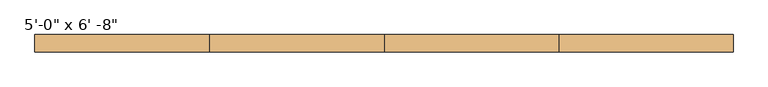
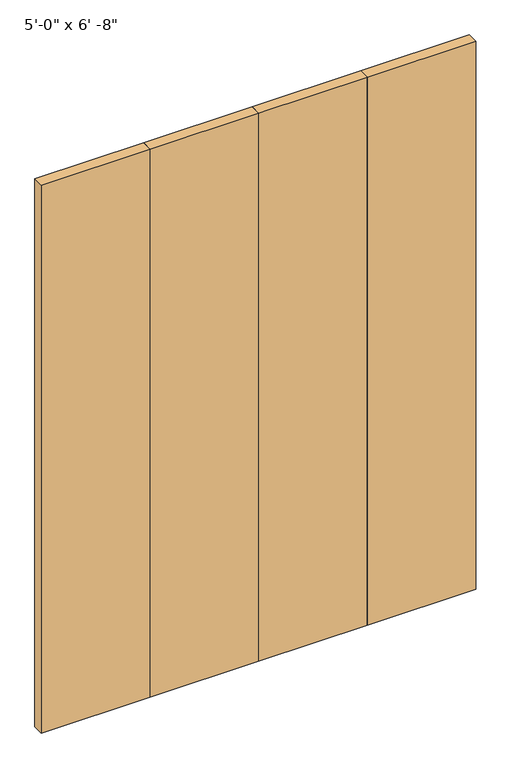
"""IFC4 building model written with IfcOpenShell, lengths in millimetres: door geometry."""

from ifc_helpers import new_model, si_unit, origin, origin_with_axes, place, context, project, spatial, polyline, outline, extrude, source, transform, mapped, element, save


def door_69b0f0e7(model_context):
    return source(origin(), model_context, "Body", "SweptSolid", [
        extrude(outline(polyline([(-762.0, 57.15), (-381.0, 57.15), (-381.0, 19.05), (-762.0, 19.05), (-762.0, 57.15)])), origin_with_axes(), (0.0, 0.0, 1.0), 2032.0),
        extrude(outline(polyline([(-381.0, 57.15), (0.0, 57.15), (0.0, 19.05), (-381.0, 19.05), (-381.0, 57.15)])), origin_with_axes(), (0.0, 0.0, 1.0), 2032.0),
        extrude(outline(polyline([(0.0, 57.15), (381.0, 57.15), (381.0, 19.05), (0.0, 19.05), (0.0, 57.15)])), origin_with_axes(), (0.0, 0.0, 1.0), 2032.0),
        extrude(outline(polyline([(381.0, 57.15), (762.0, 57.15), (762.0, 19.05), (381.0, 19.05), (381.0, 57.15)])), origin_with_axes(), (0.0, 0.0, 1.0), 2032.0),
    ])


if __name__ == "__main__":
    model = new_model("IFC4")
    model_context = context("Model", 3, world=origin())
    ifc_project = project(units=[si_unit("LENGTHUNIT", "METRE", prefix="MILLI")], contexts=[model_context])
    site = spatial("IfcSite", under=ifc_project)
    building = spatial("IfcBuilding", under=site)
    placement = place(None, origin())
    door_shape = door_69b0f0e7(model_context)
    element("IfcDoor", 1, ObjectType="Planitar - Bifold Door : 5'-0\" x 6' -8\"", at=placement, inside=building, context=model_context, shape_type="MappedRepresentation", body=[
        mapped(door_shape, transform((0.0, 0.0, 0.0), x_axis=(1.0, 0.0, 0.0), y_axis=(0.0, 1.0, 0.0), z_axis=(0.0, 0.0, 1.0))),
    ])
    save(model, "model.ifc")
